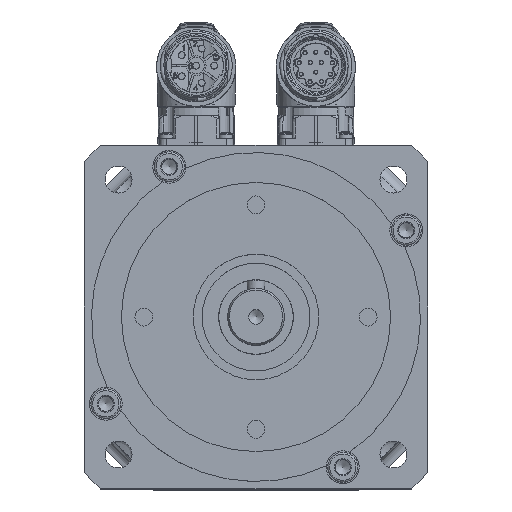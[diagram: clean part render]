
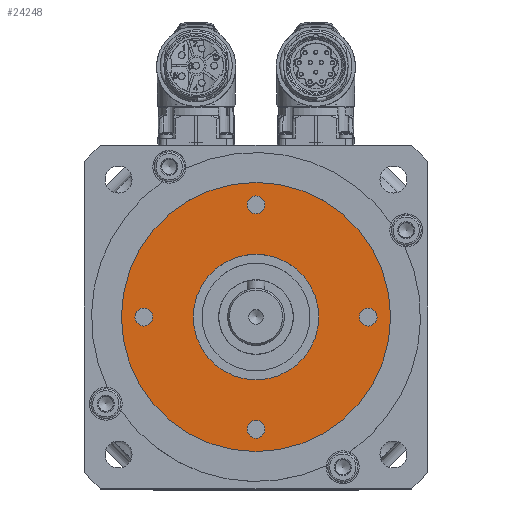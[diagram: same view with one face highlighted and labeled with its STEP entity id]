
A CAD part, top view. The second image highlights one B-rep face of the part: STEP entity #24248.
In plain terms, the highlighted planar face has unit normal (0, 0, 1).
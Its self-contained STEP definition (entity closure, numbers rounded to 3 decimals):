
#5336=PLANE('',#25829);
#5885=FACE_BOUND('',#7915,.T.);
#5886=FACE_BOUND('',#7916,.T.);
#5887=FACE_BOUND('',#7917,.T.);
#5888=FACE_BOUND('',#7918,.T.);
#5889=FACE_BOUND('',#7919,.T.);
#5890=FACE_BOUND('',#7920,.T.);
#7915=EDGE_LOOP('',(#17014));
#7916=EDGE_LOOP('',(#17015));
#7917=EDGE_LOOP('',(#17016));
#7918=EDGE_LOOP('',(#17017));
#7919=EDGE_LOOP('',(#17018));
#7920=EDGE_LOOP('',(#17019));
#9860=CIRCLE('',#25749,3.);
#9862=CIRCLE('',#25752,3.);
#9864=CIRCLE('',#25755,3.);
#9866=CIRCLE('',#25758,3.);
#9911=CIRCLE('',#25827,21.);
#9912=CIRCLE('',#25830,45.);
#11020=VERTEX_POINT('',#34792);
#11022=VERTEX_POINT('',#34797);
#11024=VERTEX_POINT('',#34802);
#11026=VERTEX_POINT('',#34807);
#11075=VERTEX_POINT('',#34937);
#11076=VERTEX_POINT('',#34941);
#13481=EDGE_CURVE('',#11020,#11020,#9860,.T.);
#13483=EDGE_CURVE('',#11022,#11022,#9862,.T.);
#13485=EDGE_CURVE('',#11024,#11024,#9864,.T.);
#13487=EDGE_CURVE('',#11026,#11026,#9866,.T.);
#13544=EDGE_CURVE('',#11075,#11075,#9911,.T.);
#13545=EDGE_CURVE('',#11076,#11076,#9912,.T.);
#17014=ORIENTED_EDGE('',*,*,#13481,.T.);
#17015=ORIENTED_EDGE('',*,*,#13483,.T.);
#17016=ORIENTED_EDGE('',*,*,#13485,.T.);
#17017=ORIENTED_EDGE('',*,*,#13487,.T.);
#17018=ORIENTED_EDGE('',*,*,#13544,.T.);
#17019=ORIENTED_EDGE('',*,*,#13545,.F.);
#24248=ADVANCED_FACE('',(#5885,#5886,#5887,#5888,#5889,#5890),#5336,.T.);
#25749=AXIS2_PLACEMENT_3D('',#34793,#28369,#28370);
#25752=AXIS2_PLACEMENT_3D('',#34798,#28375,#28376);
#25755=AXIS2_PLACEMENT_3D('',#34803,#28381,#28382);
#25758=AXIS2_PLACEMENT_3D('',#34808,#28387,#28388);
#25827=AXIS2_PLACEMENT_3D('',#34938,#28537,#28538);
#25829=AXIS2_PLACEMENT_3D('',#34940,#28541,#28542);
#25830=AXIS2_PLACEMENT_3D('',#34942,#28543,#28544);
#28369=DIRECTION('center_axis',(0.,0.,-1.));
#28370=DIRECTION('ref_axis',(0.,-1.,0.));
#28375=DIRECTION('center_axis',(0.,0.,-1.));
#28376=DIRECTION('ref_axis',(-1.,0.,0.));
#28381=DIRECTION('center_axis',(0.,0.,-1.));
#28382=DIRECTION('ref_axis',(0.,1.,0.));
#28387=DIRECTION('center_axis',(0.,0.,-1.));
#28388=DIRECTION('ref_axis',(1.,0.,0.));
#28537=DIRECTION('center_axis',(0.,0.,-1.));
#28538=DIRECTION('ref_axis',(-1.,0.,0.));
#28541=DIRECTION('center_axis',(0.,0.,1.));
#28542=DIRECTION('ref_axis',(1.,0.,0.));
#28543=DIRECTION('center_axis',(0.,0.,-1.));
#28544=DIRECTION('ref_axis',(-1.,0.,0.));
#34792=CARTESIAN_POINT('',(37.5,-3.,11.5));
#34793=CARTESIAN_POINT('Origin',(37.5,0.,11.5));
#34797=CARTESIAN_POINT('',(-3.,-37.5,11.5));
#34798=CARTESIAN_POINT('Origin',(0.,-37.5,11.5));
#34802=CARTESIAN_POINT('',(-37.5,3.,11.5));
#34803=CARTESIAN_POINT('Origin',(-37.5,0.,11.5));
#34807=CARTESIAN_POINT('',(3.,37.5,11.5));
#34808=CARTESIAN_POINT('Origin',(0.,37.5,11.5));
#34937=CARTESIAN_POINT('',(21.,0.,11.5));
#34938=CARTESIAN_POINT('Origin',(0.,0.,11.5));
#34940=CARTESIAN_POINT('Origin',(0.,0.,
11.5));
#34941=CARTESIAN_POINT('',(45.,0.,11.5));
#34942=CARTESIAN_POINT('Origin',(0.,0.,11.5));
